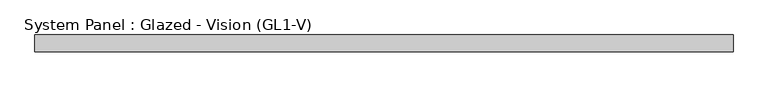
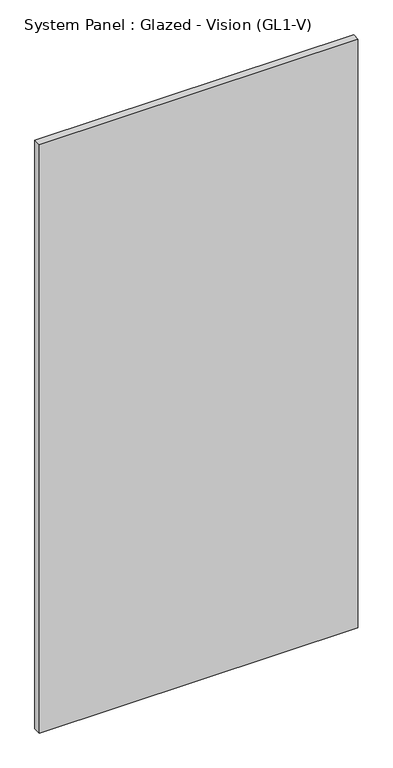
"""IFC4 building model written with IfcOpenShell, lengths in millimetres: plate geometry, System Panel : Glazed - Vision (GL1-V)."""

import ifcopenshell
import ifcopenshell.guid

model = None  # the IFC model being written
_history = None  # IfcOwnerHistory: only IFC2X3 demands one
_inside = {}  # id of a spatial element -> (the spatial element, [elements in it])
_under = {}  # id of a project, library or spatial element -> (it, [spatial elements below it])
_declared = {}  # id of a project -> (the project, [libraries it declares])
_typed = {}  # id of a type object -> (the type object, [elements of that type])
_made_of = {}  # id of a material, layer set ... -> (it, [elements and type objects made of it])


def new_model(schema):
    """Start an empty IFC model of exactly this schema.

    Asked for "IFC4X3", IfcOpenShell would pick the latest addendum, in which some entities
    have other attributes; the version numbers below select the first issue.
    IFC2X3 requires an IfcOwnerHistory on every rooted entity: one is made here for all.
    """
    global model, _history
    if schema == "IFC4X3":
        model = ifcopenshell.file(schema_version=(4, 3, 0, 0))
    else:
        model = ifcopenshell.file(schema=schema)
    _inside.clear()
    _under.clear()
    _declared.clear()
    _typed.clear()
    _made_of.clear()
    _history = None
    if model.schema == "IFC2X3":
        org = make("IfcOrganization", Name="unknown")
        user = make(
            "IfcPersonAndOrganization",
            ThePerson=make("IfcPerson", FamilyName="unknown"),
            TheOrganization=org,
        )
        app = make(
            "IfcApplication",
            ApplicationDeveloper=org,
            Version="unknown",
            ApplicationFullName="unknown",
            ApplicationIdentifier="unknown",
        )
        _history = make(
            "IfcOwnerHistory",
            OwningUser=user,
            OwningApplication=app,
            ChangeAction="ADDED",
            CreationDate=0,
        )
    return model


def make(cls, **values):
    """One entity of the class cls with the attributes given. An attribute that is None is left unset."""
    return model.create_entity(
        cls, **{name: value for name, value in values.items() if value is not None}
    )


def rooted(cls, **values):
    """An entity with a GlobalId (a new one), such as an element, a storey or a relation."""
    return make(cls, GlobalId=ifcopenshell.guid.new(), OwnerHistory=_history, **values)


def si_unit(unit_type, name, prefix=None):
    """IfcSIUnit, for example si_unit("LENGTHUNIT", "METRE", prefix="MILLI")."""
    return make("IfcSIUnit", UnitType=unit_type, Prefix=prefix, Name=name)


def assignment(units):
    """IfcUnitAssignment: the units of a project."""
    return None if units is None else make("IfcUnitAssignment", Units=units)


def point(xyz):
    """IfcCartesianPoint."""
    return None if xyz is None else make("IfcCartesianPoint", Coordinates=xyz)


def direction(xyz):
    """IfcDirection."""
    return None if xyz is None else make("IfcDirection", DirectionRatios=xyz)


def frame(location, z_axis=None, x_axis=None):
    """IfcAxis2Placement3D, a coordinate frame: its origin and axes. An axis left out is left unset."""
    return make(
        "IfcAxis2Placement3D",
        Location=point(location),
        Axis=direction(z_axis),
        RefDirection=direction(x_axis),
    )


def origin():
    """The frame at (0, 0, 0) with its axes left unset."""
    return frame((0.0, 0.0, 0.0))


def origin_with_axes():
    """The frame at (0, 0, 0) with the z axis (0, 0, 1) and the x axis (1, 0, 0) written out."""
    return frame((0.0, 0.0, 0.0), z_axis=(0.0, 0.0, 1.0), x_axis=(1.0, 0.0, 0.0))


def place(relative_to, where):
    """IfcLocalPlacement: puts the frame where relative to a parent placement (None: the world)."""
    return make(
        "IfcLocalPlacement", PlacementRelTo=relative_to, RelativePlacement=where
    )


def context(
    kind, dimensions, precision=None, world=None, true_north=None, identifier=None
):
    """IfcGeometricRepresentationContext, for example the 3D "Model" context."""
    return make(
        "IfcGeometricRepresentationContext",
        ContextIdentifier=identifier,
        ContextType=kind,
        CoordinateSpaceDimension=dimensions,
        Precision=precision,
        WorldCoordinateSystem=world,
        TrueNorth=true_north,
    )


def project(units=None, contexts=None):
    """IfcProject with its units and contexts."""
    return rooted(
        "IfcProject",
        Name="project",
        RepresentationContexts=contexts,
        UnitsInContext=assignment(units),
    )


def spatial(cls, under=None, at=None, **own):
    """A site, building, storey or space (cls), placed at a placement, below another one or the project."""
    s = rooted(cls, ObjectPlacement=at, **own)
    if under is not None:
        _under.setdefault(under.id(), (under, []))[1].append(s)
    return s


def polyline(points):
    """IfcPolyline through the points."""
    return make("IfcPolyline", Points=[point(p) for p in points])


def outline(outer, holes=None, kind="AREA"):
    """IfcArbitraryClosedProfileDef: a profile drawn as a closed curve; with holes, ...WithVoids."""
    if holes is None:
        return make("IfcArbitraryClosedProfileDef", ProfileType=kind, OuterCurve=outer)
    return make(
        "IfcArbitraryProfileDefWithVoids",
        ProfileType=kind,
        OuterCurve=outer,
        InnerCurves=holes,
    )


def extrude(swept, where, along, depth):
    """IfcExtrudedAreaSolid: the profile swept, set in the frame where, extruded along a direction by depth."""
    return make(
        "IfcExtrudedAreaSolid",
        SweptArea=swept,
        Position=where,
        ExtrudedDirection=direction(along),
        Depth=depth,
    )


def shape(context_of_items, identifier, shape_type, items):
    """IfcShapeRepresentation: the items that make up one representation, for example the "Body"."""
    return make(
        "IfcShapeRepresentation",
        ContextOfItems=context_of_items,
        RepresentationIdentifier=identifier,
        RepresentationType=shape_type,
        Items=items,
    )


def source(mapping_origin, context_of_items, identifier, shape_type, items):
    """IfcRepresentationMap: a shape defined once, which mapped items show again and again."""
    return make(
        "IfcRepresentationMap",
        MappingOrigin=mapping_origin,
        MappedRepresentation=shape(context_of_items, identifier, shape_type, items),
    )


def transform(
    local_origin,
    x_axis=None,
    y_axis=None,
    z_axis=None,
    scale=None,
    scale2=None,
    scale3=None,
    uniform=True,
):
    """IfcCartesianTransformationOperator3D, or its non-uniform kind. x_axis, y_axis, z_axis: its Axis1, 2, 3."""
    if uniform:
        return make(
            "IfcCartesianTransformationOperator3D",
            Axis1=direction(x_axis),
            Axis2=direction(y_axis),
            LocalOrigin=point(local_origin),
            Scale=scale,
            Axis3=direction(z_axis),
        )
    return make(
        "IfcCartesianTransformationOperator3DnonUniform",
        Axis1=direction(x_axis),
        Axis2=direction(y_axis),
        LocalOrigin=point(local_origin),
        Scale=scale,
        Axis3=direction(z_axis),
        Scale2=scale2,
        Scale3=scale3,
    )


def mapped(mapping_source, mapping_target):
    """IfcMappedItem: shows the shape of a source again, moved by a transform."""
    return make(
        "IfcMappedItem", MappingSource=mapping_source, MappingTarget=mapping_target
    )


def made_of(thing, what):
    """Note that an element or type object is made of a material, layer set ...; save() writes the relation."""
    if what is not None:
        _made_of.setdefault(what.id(), (what, []))[1].append(thing)
    return thing


def element(
    cls,
    number,
    at=None,
    inside=None,
    cuts=None,
    type_object=None,
    material=None,
    context=None,
    identifier="Body",
    shape_type=None,
    held_by="IfcProductDefinitionShape",
    body=None,
    shapes=None,
    **own,
):
    """One element of the class cls, such as IfcWall. Its Tag is "e" and its number.

    at: its placement. inside: the storey or other place that contains it. cuts: it is an
    opening in that element (IfcRelVoidsElement). A single representation is given by context,
    identifier, shape_type and body (its items); several are given by shapes. held_by: the class
    of the entity that holds the representations. save() writes the other relations.
    """
    e = rooted(cls, Tag="e%d" % number, ObjectPlacement=at, **own)
    if body is not None:
        shapes = [shape(context, identifier, shape_type, body)]
    if shapes is not None:
        e.Representation = make(held_by, Representations=shapes)
    if inside is not None:
        _inside.setdefault(inside.id(), (inside, []))[1].append(e)
    if cuts is not None:
        rooted(
            "IfcRelVoidsElement", RelatingBuildingElement=cuts, RelatedOpeningElement=e
        )
    if type_object is not None:
        _typed.setdefault(type_object.id(), (type_object, []))[1].append(e)
    return made_of(e, material)


def aggregate(whole, parts):
    """IfcRelAggregates: a whole, such as a stair, and the parts it consists of."""
    return rooted("IfcRelAggregates", RelatingObject=whole, RelatedObjects=parts)


def save(model, path):
    """Write the relations noted so far, then the file.

    IfcRelAggregates (storeys below a building ...), IfcRelContainedInSpatialStructure (elements
    in a storey), IfcRelDefinesByType, IfcRelAssociatesMaterial and IfcRelDeclares: one each for
    every whole, place, type object, material and project.
    """
    for whole, parts in _under.values():
        aggregate(whole, parts)
    for where, things in _inside.values():
        rooted(
            "IfcRelContainedInSpatialStructure",
            RelatedElements=things,
            RelatingStructure=where,
        )
    for kind, things in _typed.values():
        rooted("IfcRelDefinesByType", RelatedObjects=things, RelatingType=kind)
    for what, things in _made_of.values():
        rooted("IfcRelAssociatesMaterial", RelatedObjects=things, RelatingMaterial=what)
    for by, libraries in _declared.values():
        rooted("IfcRelDeclares", RelatingContext=by, RelatedDefinitions=libraries)
    model.write(path)


def system_panel_glazed_vision_gl1_v_43748854(model_context):
    return source(origin(), model_context, "Body", "SweptSolid", [
        extrude(outline(polyline([(527.05, -25.4), (-527.05, -25.4), (-527.05, 0.0), (527.05, 0.0), (527.05, -25.4)])), origin_with_axes(), (0.0, 0.0, 1.0), 2057.4),
    ])


if __name__ == "__main__":
    model = new_model("IFC4")
    model_context = context("Model", 3, world=origin())
    ifc_project = project(units=[si_unit("LENGTHUNIT", "METRE", prefix="MILLI")], contexts=[model_context])
    site = spatial("IfcSite", under=ifc_project)
    building = spatial("IfcBuilding", under=site)
    placement = place(None, origin())
    system_panel_glazed_vision_gl1_v_shape = system_panel_glazed_vision_gl1_v_43748854(model_context)
    element("IfcPlate", 1, ObjectType="System Panel : Glazed - Vision (GL1-V)", at=placement, inside=building, context=model_context, shape_type="MappedRepresentation", body=[
        mapped(system_panel_glazed_vision_gl1_v_shape, transform((0.0, 0.0, 0.0), x_axis=(1.0, 0.0, 0.0), y_axis=(0.0, 1.0, 0.0), z_axis=(0.0, 0.0, 1.0))),
    ])
    save(model, "model.ifc")
